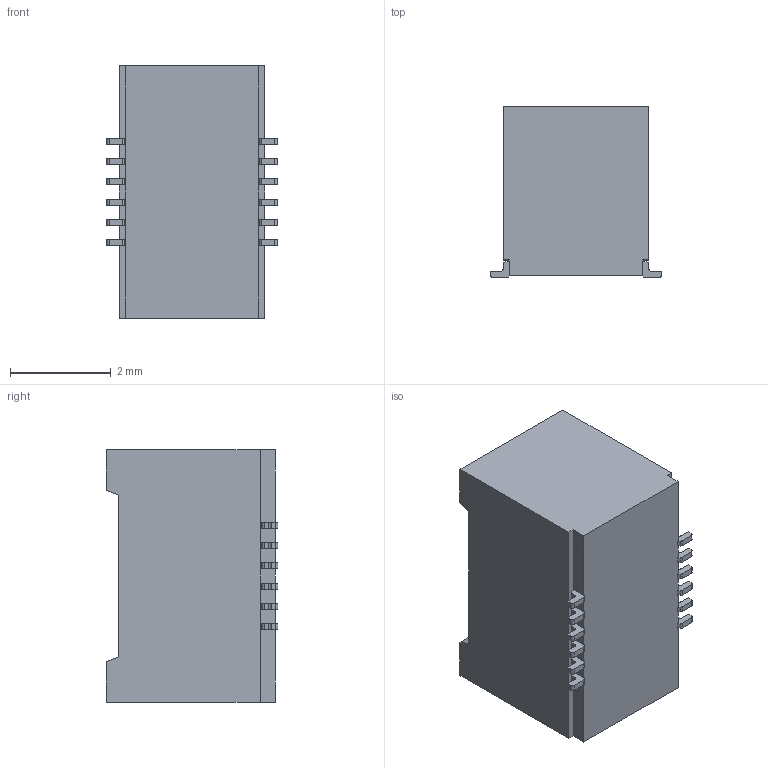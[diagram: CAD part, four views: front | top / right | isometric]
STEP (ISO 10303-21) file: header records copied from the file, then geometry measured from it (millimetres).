
FILE_DESCRIPTION (( 'STEP AP203' ), '1' );
FILE_NAME ('HC-PBB40C-12DS-0.4V-3.4-06 (0.4 邧羞 泂え 譫釱 BTB-HCTL).STEP', '2026-01-23T10:09:46', ( '' ), ( '' ), 'SwSTEP 2.0', 'SolidWorks 2025', '' );
FILE_SCHEMA (( 'CONFIG_CONTROL_DESIGN' ));
Length unit declared in the file: millimetre
Products named in the file (1): HC-PBB40C-12DS-0.4V-3.4-06 (0.4 双槽 贴片 母座 BTB-HCTL)
Bounding box: 3.38 x 3.4 x 5 mm (x, y, z)
Volume: 39.1 mm3; surface area: 106.7 mm2
Topology: 1 solids, 1 shells, 301 faces, 834 edges, 548 vertices
Faces by surface type: plane 223, cylinder 78
Entity records: 9609 total; most frequent: CARTESIAN_POINT 1684, ORIENTED_EDGE 1668, DIRECTION 1594, EDGE_CURVE 834, LINE 678, VECTOR 678, VERTEX_POINT 548, AXIS2_PLACEMENT_3D 458
